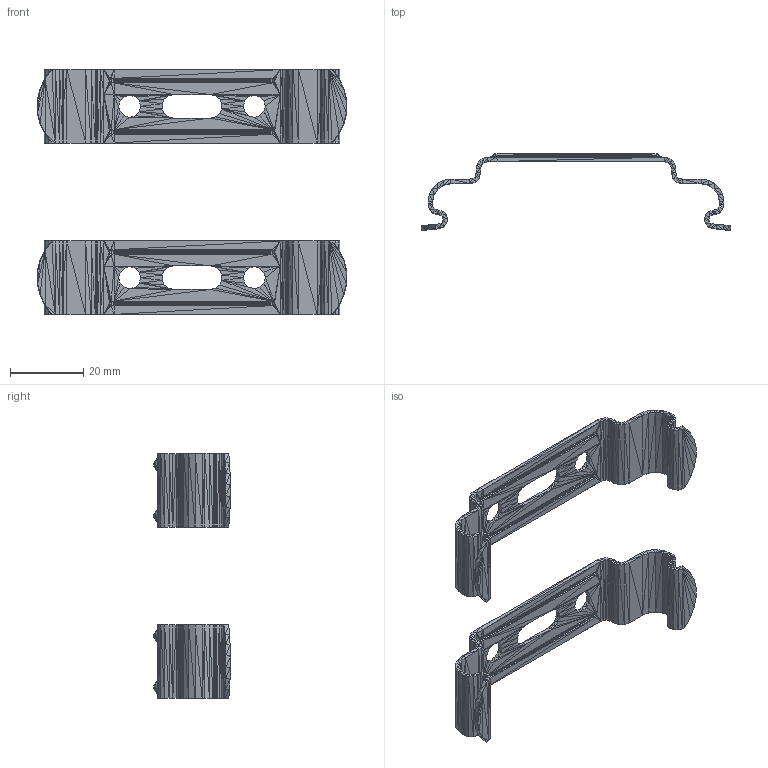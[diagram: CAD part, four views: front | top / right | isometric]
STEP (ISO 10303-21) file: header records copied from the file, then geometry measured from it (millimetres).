
FILE_DESCRIPTION((''),'2;1');
FILE_NAME('051260', '2026-02-18T10:13:03', (''), (''), 'ImageToStl.com STEP Converter','', '');
FILE_SCHEMA(('AUTOMOTIVE_DESIGN_CC2'));
Length unit declared in the file: metre
Products named in the file (1): product0
Bounding box: 84.33 x 20.89 x 66.69 mm (x, y, z)
Surface area: 10256.7 mm2 (no closed solid volume)
Topology: 0 solids, 3344 shells, 3344 faces, 10032 edges, 1664 vertices
Faces by surface type: plane 3344
Entity records: 76924 total; most frequent: DIRECTION 16722, ORIENTED_EDGE 10032, EDGE_CURVE 10032, LINE 10032, VECTOR 10032, AXIS2_PLACEMENT_3D 3345, FACE_SURFACE 3344, PLANE 3344
